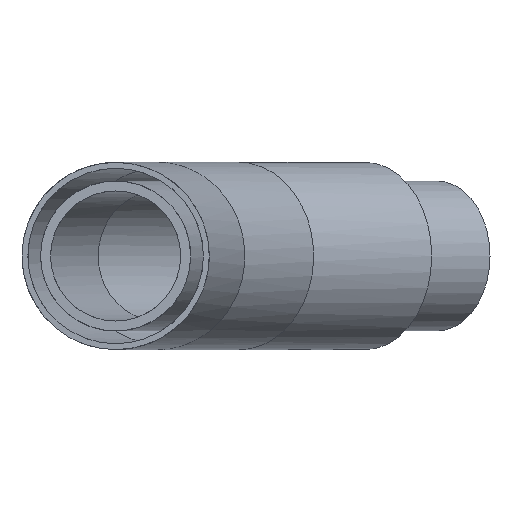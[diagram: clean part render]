
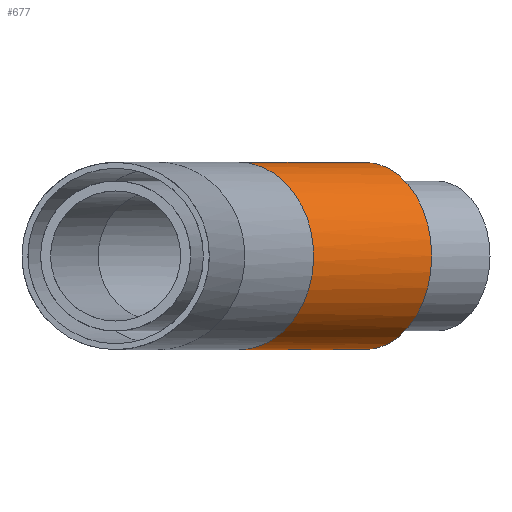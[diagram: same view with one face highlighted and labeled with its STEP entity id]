
A CAD part, front view. The second image highlights one B-rep face of the part: STEP entity #677.
In plain terms, the highlighted cylindrical face has radius 100.2 mm (diameter 200.4 mm), a partial arc.
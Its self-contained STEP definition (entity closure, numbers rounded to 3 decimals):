
#39 = EDGE_CURVE ( 'NONE', #404, #926, #871, .T. ) ;
#51 = CARTESIAN_POINT ( 'NONE',  ( 122.416, 500.538, 0. ) ) ;
#55 = LINE ( 'NONE', #255, #542 ) ;
#184 = EDGE_CURVE ( 'NONE', #926, #526, #55, .T. ) ;
#208 = DIRECTION ( 'NONE',  ( 0.707, 0.707, 0. ) ) ;
#235 = VERTEX_POINT ( 'NONE', #340 ) ;
#254 = ORIENTED_EDGE ( 'NONE', *, *, #294, .F. ) ;
#255 = CARTESIAN_POINT ( 'NONE',  ( 122.416, 500.538, -100.2 ) ) ;
#279 = LINE ( 'NONE', #969, #859 ) ;
#294 = EDGE_CURVE ( 'NONE', #404, #235, #279, .T. ) ;
#297 = DIRECTION ( 'NONE',  ( 0.707, 0.707, 0. ) ) ;
#310 = DIRECTION ( 'NONE',  ( 0., 0., -1. ) ) ;
#319 = CARTESIAN_POINT ( 'NONE',  ( 131.744, 509.866, 100.2 ) ) ;
#332 = CIRCLE ( 'NONE', #446, 100.2 ) ;
#340 = CARTESIAN_POINT ( 'NONE',  ( 267.373, 645.495, 100.2 ) ) ;
#404 = VERTEX_POINT ( 'NONE', #606 ) ;
#427 = FACE_OUTER_BOUND ( 'NONE', #940, .T. ) ;
#433 = AXIS2_PLACEMENT_3D ( 'NONE', #51, #208, #646 ) ;
#437 = ORIENTED_EDGE ( 'NONE', *, *, #39, .T. ) ;
#446 = AXIS2_PLACEMENT_3D ( 'NONE', #671, #747, #310 ) ;
#526 = VERTEX_POINT ( 'NONE', #935 ) ;
#536 = CARTESIAN_POINT ( 'NONE',  ( 131.744, 509.866, -100.2 ) ) ;
#542 = VECTOR ( 'NONE', #937, 1000. ) ;
#605 = CARTESIAN_POINT ( 'NONE',  ( 131.744, 509.866, -100.2 ) ) ;
#606 = CARTESIAN_POINT ( 'NONE',  ( 131.744, 509.866, 100.2 ) ) ;
#646 = DIRECTION ( 'NONE',  ( 0., 0., 1. ) ) ;
#671 = CARTESIAN_POINT ( 'NONE',  ( 267.373, 645.495, 0. ) ) ;
#677 = ADVANCED_FACE ( 'NONE', ( #427 ), #722, .T. ) ;
#722 = CYLINDRICAL_SURFACE ( 'NONE', #433, 100.2 ) ;
#730 = ORIENTED_EDGE ( 'NONE', *, *, #948, .T. ) ;
#747 = DIRECTION ( 'NONE',  ( -0.707, -0.707, 0. ) ) ;
#849 = CARTESIAN_POINT ( 'NONE',  ( 292.104, 386.818, -100.2 ) ) ;
#857 = ORIENTED_EDGE ( 'NONE', *, *, #184, .T. ) ;
#859 = VECTOR ( 'NONE', #297, 1000. ) ;
#871 =( BOUNDED_CURVE ( )  B_SPLINE_CURVE ( 3, ( #319, #922, #849, #536 ),
 .UNSPECIFIED., .F., .T. ) 
 B_SPLINE_CURVE_WITH_KNOTS ( ( 4, 4 ),
 ( 4.712, 7.854 ),
 .UNSPECIFIED. ) 
 CURVE ( )  GEOMETRIC_REPRESENTATION_ITEM ( )  RATIONAL_B_SPLINE_CURVE ( ( 1., 0.333, 0.333, 1. ) ) 
 REPRESENTATION_ITEM ( '' )  );
#922 = CARTESIAN_POINT ( 'NONE',  ( 292.104, 386.818, 100.2 ) ) ;
#926 = VERTEX_POINT ( 'NONE', #605 ) ;
#935 = CARTESIAN_POINT ( 'NONE',  ( 267.373, 645.495, -100.2 ) ) ;
#937 = DIRECTION ( 'NONE',  ( 0.707, 0.707, 0. ) ) ;
#940 = EDGE_LOOP ( 'NONE', ( #437, #857, #730, #254 ) ) ;
#948 = EDGE_CURVE ( 'NONE', #526, #235, #332, .T. ) ;
#969 = CARTESIAN_POINT ( 'NONE',  ( 122.416, 500.538, 100.2 ) ) ;
